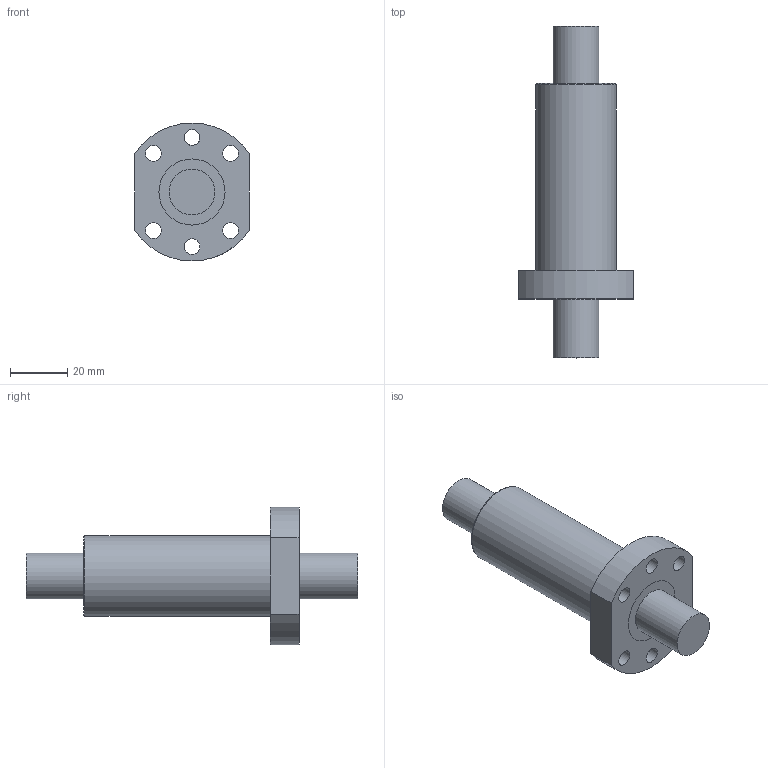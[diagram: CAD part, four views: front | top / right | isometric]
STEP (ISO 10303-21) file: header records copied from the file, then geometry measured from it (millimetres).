
FILE_DESCRIPTION(/* description */ (''),/* implementation_level */ '2;1');
FILE_NAME(/* name */ 'OFU01605-4.stp',/* time_stamp */ '2017-03-13T10:51:12+08:00',/* author */ (''),/* organization */ (''),/* preprocessor_version */ 'ST-DEVELOPER v11',/* originating_system */ 'SIEMENS UGS NX 6.0',/* authorisation */ '');
FILE_SCHEMA (('CONFIG_CONTROL_DESIGN'));
Length unit declared in the file: millimetre
Products named in the file (1): OFU01605-4
Bounding box: 40 x 115.5 x 48 mm (x, y, z)
Volume: 63137.2 mm3; surface area: 22884.6 mm2
Topology: 4 solids, 4 shells, 34 faces, 78 edges, 54 vertices
Faces by surface type: cylinder 19, plane 14, torus 1
Full cylindrical faces by diameter (mm): 4 x1, 5 x1, 5.5 x6, 16 x4, 23 x4, 28 x1
Entity records: 1038 total; most frequent: CARTESIAN_POINT 246, DIRECTION 154, ORIENTED_EDGE 100, EDGE_LOOP 74, AXIS2_PLACEMENT_3D 72, FACE_BOUND 68, EDGE_CURVE 50, VERTEX_POINT 44
